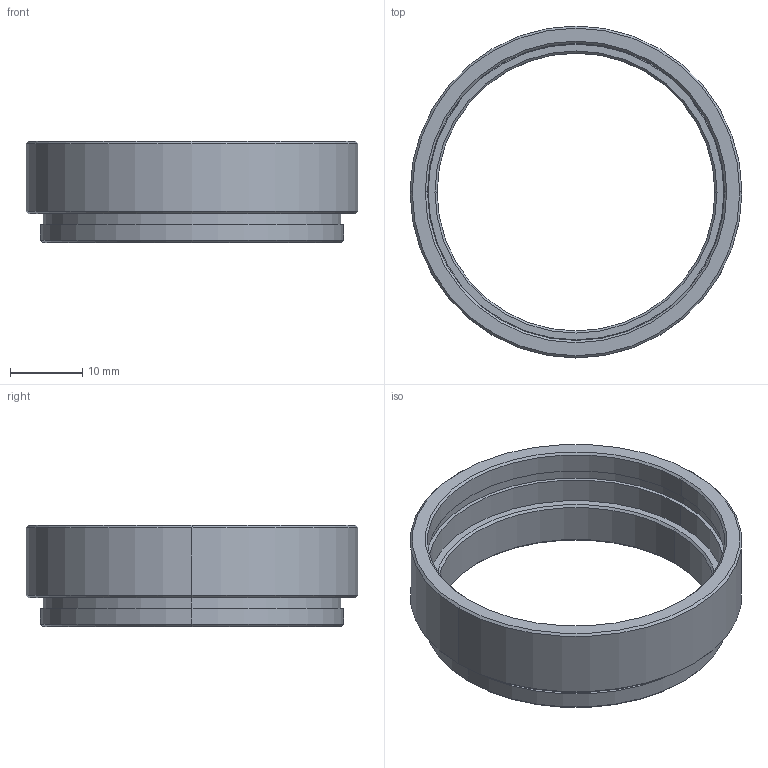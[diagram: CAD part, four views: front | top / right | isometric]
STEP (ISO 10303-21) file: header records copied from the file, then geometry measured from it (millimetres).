
FILE_DESCRIPTION (( 'STEP AP203' ), '1' );
FILE_NAME ('EXR-M42-L10_A23362B0200101A.STEP', '2019-03-18T01:10:58', ( '' ), ( '' ), 'SwSTEP 2.0', 'SolidWorks 2014', '' );
FILE_SCHEMA (( 'CONFIG_CONTROL_DESIGN' ));
Length unit declared in the file: millimetre
Products named in the file (1): EXR-M42-L10_A23362B0200101A
Bounding box: 46 x 46 x 14 mm (x, y, z)
Volume: 4363.2 mm3; surface area: 4797.3 mm2
Topology: 1 solids, 1 shells, 33 faces, 66 edges, 40 vertices
Faces by surface type: cylinder 14, cone 12, plane 7
Entity records: 945 total; most frequent: DIRECTION 174, CARTESIAN_POINT 140, ORIENTED_EDGE 132, AXIS2_PLACEMENT_3D 74, EDGE_CURVE 66, CIRCLE 40, EDGE_LOOP 40, VERTEX_POINT 40
